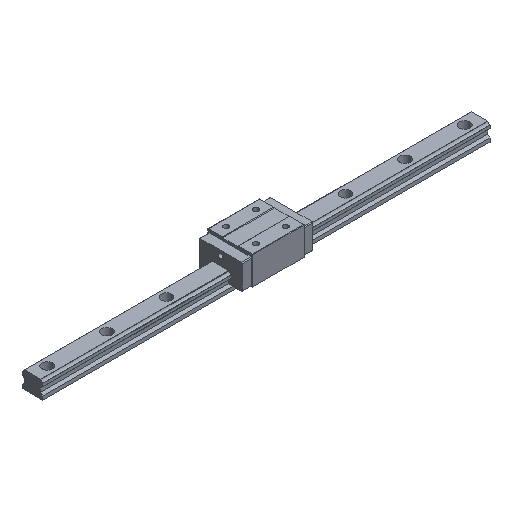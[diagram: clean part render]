
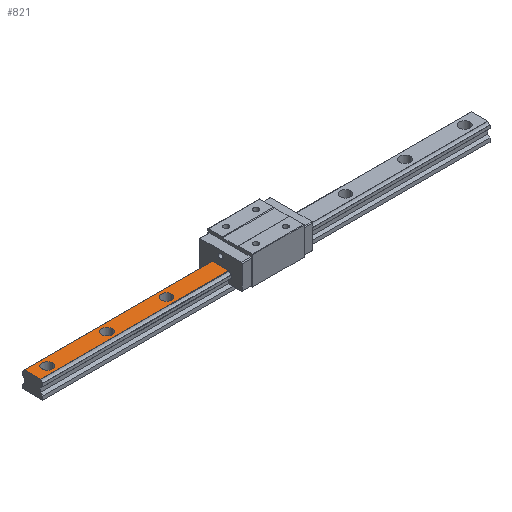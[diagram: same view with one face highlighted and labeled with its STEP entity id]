
A CAD part, isometric view. The second image highlights one B-rep face of the part: STEP entity #821.
In plain terms, the highlighted planar face has unit normal (0, 0, 1).
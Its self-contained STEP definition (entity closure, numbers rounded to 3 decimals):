
#250 = DIRECTION ( 'NONE',  ( -1., 0., 0. ) ) ;
#258 = EDGE_LOOP ( 'NONE', ( #2362, #1300 ) ) ;
#261 = PLANE ( 'NONE',  #1058 ) ;
#268 = CARTESIAN_POINT ( 'NONE',  ( 300., -11.035, 23. ) ) ;
#303 = DIRECTION ( 'NONE',  ( 0., 0., -1. ) ) ;
#342 = CARTESIAN_POINT ( 'NONE',  ( -273., 0., 23. ) ) ;
#386 = AXIS2_PLACEMENT_3D ( 'NONE', #2311, #4335, #250 ) ;
#398 = CARTESIAN_POINT ( 'NONE',  ( -200., 0., 23. ) ) ;
#447 = VERTEX_POINT ( 'NONE', #4538 ) ;
#482 = ORIENTED_EDGE ( 'NONE', *, *, #3161, .F. ) ;
#582 = LINE ( 'NONE', #4689, #3343 ) ;
#686 = FACE_BOUND ( 'NONE', #258, .T. ) ;
#687 = CARTESIAN_POINT ( 'NONE',  ( -280., 0., 23. ) ) ;
#791 = VERTEX_POINT ( 'NONE', #1919 ) ;
#821 = ADVANCED_FACE ( 'NONE', ( #5293, #5266, #686, #1099 ), #261, .F. ) ;
#829 = AXIS2_PLACEMENT_3D ( 'NONE', #687, #2299, #2353 ) ;
#842 = ORIENTED_EDGE ( 'NONE', *, *, #4808, .T. ) ;
#970 = EDGE_CURVE ( 'NONE', #4612, #1563, #3474, .T. ) ;
#1058 = AXIS2_PLACEMENT_3D ( 'NONE', #1591, #4402, #4483 ) ;
#1099 = FACE_OUTER_BOUND ( 'NONE', #3263, .T. ) ;
#1145 = ORIENTED_EDGE ( 'NONE', *, *, #5014, .T. ) ;
#1155 = VERTEX_POINT ( 'NONE', #2289 ) ;
#1203 = DIRECTION ( 'NONE',  ( -1., 0., 0. ) ) ;
#1300 = ORIENTED_EDGE ( 'NONE', *, *, #1974, .T. ) ;
#1326 = VERTEX_POINT ( 'NONE', #1692 ) ;
#1356 = CIRCLE ( 'NONE', #829, 7. ) ;
#1379 = CARTESIAN_POINT ( 'NONE',  ( -287., 0., 23. ) ) ;
#1443 = LINE ( 'NONE', #268, #1747 ) ;
#1473 = EDGE_CURVE ( 'NONE', #3886, #1155, #1443, .T. ) ;
#1563 = VERTEX_POINT ( 'NONE', #3175 ) ;
#1591 = CARTESIAN_POINT ( 'NONE',  ( 300., 0., 23. ) ) ;
#1661 = ORIENTED_EDGE ( 'NONE', *, *, #4800, .T. ) ;
#1692 = CARTESIAN_POINT ( 'NONE',  ( -47.35, 11.035, 23. ) ) ;
#1747 = VECTOR ( 'NONE', #1927, 1000. ) ;
#1919 = CARTESIAN_POINT ( 'NONE',  ( -113., 0., 23. ) ) ;
#1927 = DIRECTION ( 'NONE',  ( 1., 0., 0. ) ) ;
#1948 = LINE ( 'NONE', #2510, #3259 ) ;
#1974 = EDGE_CURVE ( 'NONE', #791, #447, #4500, .T. ) ;
#1980 = DIRECTION ( 'NONE',  ( 0., 0., -1. ) ) ;
#2289 = CARTESIAN_POINT ( 'NONE',  ( -47.35, -11.035, 23. ) ) ;
#2299 = DIRECTION ( 'NONE',  ( 0., 0., -1. ) ) ;
#2311 = CARTESIAN_POINT ( 'NONE',  ( -200., 0., 23. ) ) ;
#2321 = DIRECTION ( 'NONE',  ( -1., 0., 0. ) ) ;
#2353 = DIRECTION ( 'NONE',  ( -1., 0., 0. ) ) ;
#2362 = ORIENTED_EDGE ( 'NONE', *, *, #3918, .T. ) ;
#2407 = VERTEX_POINT ( 'NONE', #342 ) ;
#2417 = EDGE_CURVE ( 'NONE', #5008, #2407, #2437, .T. ) ;
#2437 = CIRCLE ( 'NONE', #3125, 7. ) ;
#2489 = ORIENTED_EDGE ( 'NONE', *, *, #1473, .T. ) ;
#2510 = CARTESIAN_POINT ( 'NONE',  ( 300., 11.035, 23. ) ) ;
#2612 = ORIENTED_EDGE ( 'NONE', *, *, #970, .T. ) ;
#2717 = CIRCLE ( 'NONE', #386, 7. ) ;
#2721 = CARTESIAN_POINT ( 'NONE',  ( -280., 0., 23. ) ) ;
#2804 = DIRECTION ( 'NONE',  ( 0., 0., -1. ) ) ;
#2815 = AXIS2_PLACEMENT_3D ( 'NONE', #4064, #303, #1203 ) ;
#2865 = CARTESIAN_POINT ( 'NONE',  ( -120., 0., 23. ) ) ;
#3000 = DIRECTION ( 'NONE',  ( 0., -1., 0. ) ) ;
#3016 = ORIENTED_EDGE ( 'NONE', *, *, #3809, .T. ) ;
#3091 = CARTESIAN_POINT ( 'NONE',  ( -300., 11.035, 23. ) ) ;
#3125 = AXIS2_PLACEMENT_3D ( 'NONE', #2721, #2804, #2321 ) ;
#3161 = EDGE_CURVE ( 'NONE', #1326, #1155, #5086, .T. ) ;
#3175 = CARTESIAN_POINT ( 'NONE',  ( -193., 0., 23. ) ) ;
#3259 = VECTOR ( 'NONE', #5318, 1000. ) ;
#3263 = EDGE_LOOP ( 'NONE', ( #2489, #482, #842, #1145 ) ) ;
#3343 = VECTOR ( 'NONE', #3000, 1000. ) ;
#3407 = CARTESIAN_POINT ( 'NONE',  ( -207., 0., 23. ) ) ;
#3421 = EDGE_LOOP ( 'NONE', ( #2612, #3016 ) ) ;
#3447 = CARTESIAN_POINT ( 'NONE',  ( -300., -11.035, 23. ) ) ;
#3474 = CIRCLE ( 'NONE', #3739, 7. ) ;
#3652 = DIRECTION ( 'NONE',  ( -1., 0., 0. ) ) ;
#3708 = DIRECTION ( 'NONE',  ( 0., 0., -1. ) ) ;
#3739 = AXIS2_PLACEMENT_3D ( 'NONE', #398, #3708, #5339 ) ;
#3809 = EDGE_CURVE ( 'NONE', #1563, #4612, #2717, .T. ) ;
#3886 = VERTEX_POINT ( 'NONE', #3447 ) ;
#3918 = EDGE_CURVE ( 'NONE', #447, #791, #4278, .T. ) ;
#4064 = CARTESIAN_POINT ( 'NONE',  ( -120., 0., 23. ) ) ;
#4196 = DIRECTION ( 'NONE',  ( 0., -1., 0. ) ) ;
#4277 = CARTESIAN_POINT ( 'NONE',  ( -47.35, -11.035, 23. ) ) ;
#4278 = CIRCLE ( 'NONE', #2815, 7. ) ;
#4335 = DIRECTION ( 'NONE',  ( 0., 0., -1. ) ) ;
#4402 = DIRECTION ( 'NONE',  ( 0., 0., -1. ) ) ;
#4483 = DIRECTION ( 'NONE',  ( 0., -1., 0. ) ) ;
#4500 = CIRCLE ( 'NONE', #5177, 7. ) ;
#4535 = ORIENTED_EDGE ( 'NONE', *, *, #2417, .T. ) ;
#4538 = CARTESIAN_POINT ( 'NONE',  ( -127., 0., 23. ) ) ;
#4562 = VERTEX_POINT ( 'NONE', #3091 ) ;
#4612 = VERTEX_POINT ( 'NONE', #3407 ) ;
#4689 = CARTESIAN_POINT ( 'NONE',  ( -300., 0., 23. ) ) ;
#4714 = VECTOR ( 'NONE', #4196, 1000. ) ;
#4800 = EDGE_CURVE ( 'NONE', #2407, #5008, #1356, .T. ) ;
#4808 = EDGE_CURVE ( 'NONE', #1326, #4562, #1948, .T. ) ;
#5008 = VERTEX_POINT ( 'NONE', #1379 ) ;
#5014 = EDGE_CURVE ( 'NONE', #4562, #3886, #582, .T. ) ;
#5086 = LINE ( 'NONE', #4277, #4714 ) ;
#5177 = AXIS2_PLACEMENT_3D ( 'NONE', #2865, #1980, #3652 ) ;
#5266 = FACE_BOUND ( 'NONE', #3421, .T. ) ;
#5293 = FACE_BOUND ( 'NONE', #5302, .T. ) ;
#5302 = EDGE_LOOP ( 'NONE', ( #4535, #1661 ) ) ;
#5318 = DIRECTION ( 'NONE',  ( -1., 0., 0. ) ) ;
#5339 = DIRECTION ( 'NONE',  ( -1., 0., 0. ) ) ;
